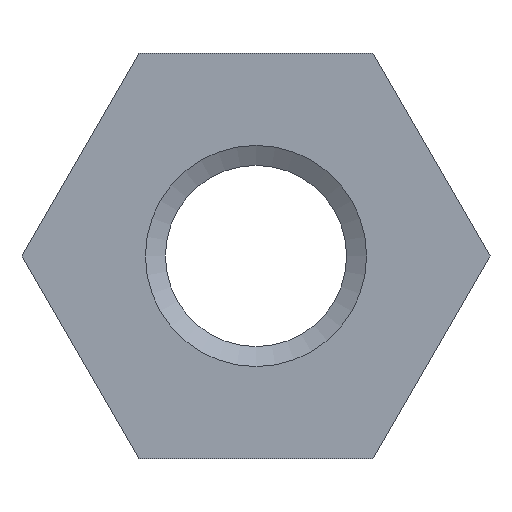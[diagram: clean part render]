
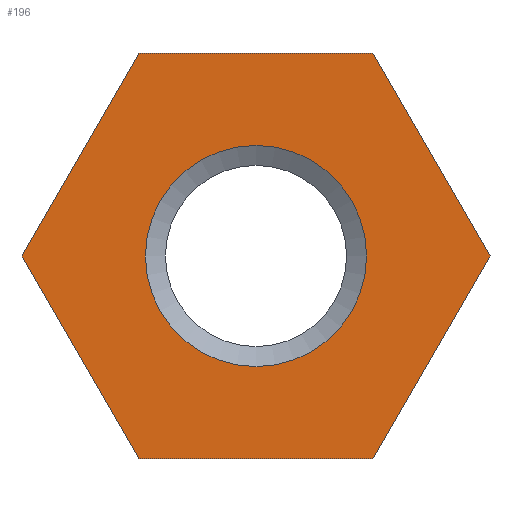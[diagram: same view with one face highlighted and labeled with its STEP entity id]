
A CAD part, left-side view. The second image highlights one B-rep face of the part: STEP entity #196.
In plain terms, the highlighted planar face has unit normal (-1, 0, 0).
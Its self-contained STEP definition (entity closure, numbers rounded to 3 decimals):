
#15=FACE_BOUND('',#40,.T.);
#17=PLANE('',#234);
#28=FACE_OUTER_BOUND('',#39,.T.);
#39=EDGE_LOOP('',(#149,#150,#151,#152,#153,#154));
#40=EDGE_LOOP('',(#155));
#52=LINE('',#315,#73);
#53=LINE('',#317,#74);
#54=LINE('',#319,#75);
#55=LINE('',#321,#76);
#56=LINE('',#323,#77);
#57=LINE('',#324,#78);
#73=VECTOR('',#262,10.);
#74=VECTOR('',#263,10.);
#75=VECTOR('',#264,10.);
#76=VECTOR('',#265,10.);
#77=VECTOR('',#266,10.);
#78=VECTOR('',#267,10.);
#92=CIRCLE('',#229,1.5);
#97=VERTEX_POINT('',#301);
#101=VERTEX_POINT('',#313);
#102=VERTEX_POINT('',#314);
#103=VERTEX_POINT('',#316);
#104=VERTEX_POINT('',#318);
#105=VERTEX_POINT('',#320);
#106=VERTEX_POINT('',#322);
#114=EDGE_CURVE('',#97,#97,#92,.T.);
#120=EDGE_CURVE('',#101,#102,#52,.T.);
#121=EDGE_CURVE('',#102,#103,#53,.T.);
#122=EDGE_CURVE('',#103,#104,#54,.T.);
#123=EDGE_CURVE('',#104,#105,#55,.T.);
#124=EDGE_CURVE('',#105,#106,#56,.T.);
#125=EDGE_CURVE('',#106,#101,#57,.T.);
#149=ORIENTED_EDGE('',*,*,#120,.T.);
#150=ORIENTED_EDGE('',*,*,#121,.T.);
#151=ORIENTED_EDGE('',*,*,#122,.T.);
#152=ORIENTED_EDGE('',*,*,#123,.T.);
#153=ORIENTED_EDGE('',*,*,#124,.T.);
#154=ORIENTED_EDGE('',*,*,#125,.T.);
#155=ORIENTED_EDGE('',*,*,#114,.F.);
#196=ADVANCED_FACE('',(#28,#15),#17,.F.);
#229=AXIS2_PLACEMENT_3D('',#302,#248,#249);
#234=AXIS2_PLACEMENT_3D('',#312,#260,#261);
#248=DIRECTION('center_axis',(-1.,0.,0.));
#249=DIRECTION('ref_axis',(0.,0.,-1.));
#260=DIRECTION('center_axis',(1.,0.,0.));
#261=DIRECTION('ref_axis',(0.,0.,-1.));
#262=DIRECTION('',(0.,-1.,0.));
#263=DIRECTION('',(0.,-0.5,0.866));
#264=DIRECTION('',(0.,0.5,0.866));
#265=DIRECTION('',(0.,1.,0.));
#266=DIRECTION('',(0.,0.5,-0.866));
#267=DIRECTION('',(0.,-0.5,-0.866));
#301=CARTESIAN_POINT('',(0.,0.,1.5));
#302=CARTESIAN_POINT('Origin',(0.,0.,0.));
#312=CARTESIAN_POINT('Origin',(0.,0.,0.));
#313=CARTESIAN_POINT('',(0.,1.588,-2.75));
#314=CARTESIAN_POINT('',(0.,-1.588,-2.75));
#315=CARTESIAN_POINT('',(0.,1.588,-2.75));
#316=CARTESIAN_POINT('',(0.,-3.175,0.));
#317=CARTESIAN_POINT('',(0.,-1.588,-2.75));
#318=CARTESIAN_POINT('',(0.,-1.588,2.75));
#319=CARTESIAN_POINT('',(0.,-3.175,0.));
#320=CARTESIAN_POINT('',(0.,1.588,2.75));
#321=CARTESIAN_POINT('',(0.,-1.588,2.75));
#322=CARTESIAN_POINT('',(0.,3.175,0.));
#323=CARTESIAN_POINT('',(0.,1.588,2.75));
#324=CARTESIAN_POINT('',(0.,3.175,0.));
